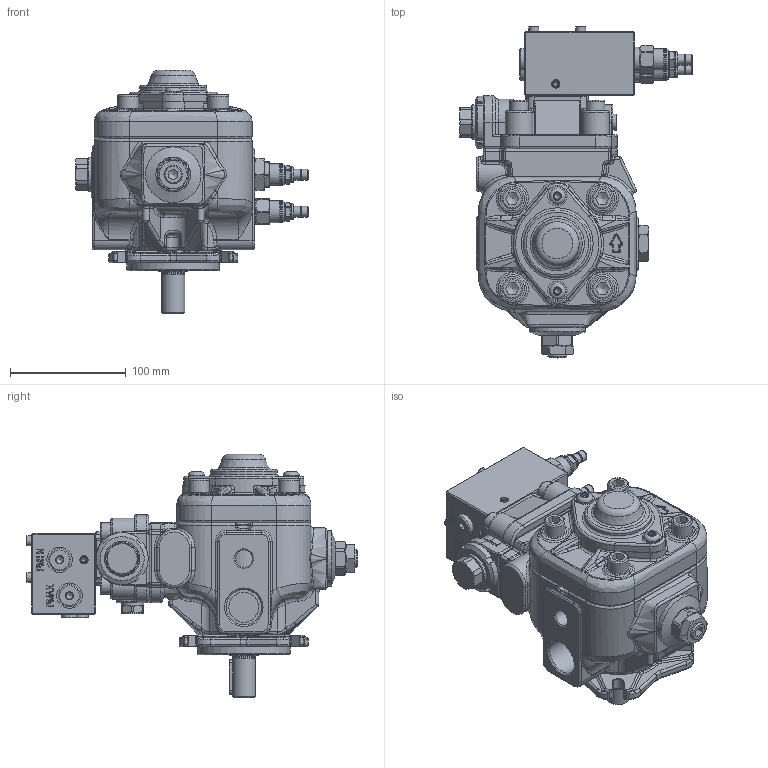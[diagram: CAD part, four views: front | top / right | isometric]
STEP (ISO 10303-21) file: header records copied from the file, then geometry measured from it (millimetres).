
FILE_DESCRIPTION(/* description */ (''),/* implementation_level */ '2;1');
FILE_NAME(/* name */ 'W:\Tecnico\Archivio\Berarma\Dimensioni Pompe\3D Export\Montaggio 3D semplificato\PLP-PHP 05\PHP05 FHRMA PCS004.stp',/* time_stamp */ '2018-10-10T15:10:12+02:00',/* author */ ('marcop'),/* organization */ (''),/* preprocessor_version */ 'ST-DEVELOPER v17',/* originating_system */ 'Autodesk Inventor 2018',/* authorisation */ '');
FILE_SCHEMA (('AUTOMOTIVE_DESIGN { 1 0 10303 214 3 1 1 }'));
Products named in the file (1): PHP05_Shrinkwrap_1
Bounding box: 200.95 x 286.6 x 210 mm (x, y, z)
Volume: 2454631.5 mm3; surface area: 281194.9 mm2
Topology: 2 solids, 2 shells, 2568 faces, 6539 edges, 4069 vertices
Faces by surface type: plane 958, cylinder 537, bspline 450, torus 299, cone 288, sphere 36
Full cylindrical faces by diameter (mm): 0.9 x6, 1.7 x4, 2.5 x2, 4 x2, 4.134 x2, 5.5 x2, 6 x3, 6.5 x9, 7.2 x1, 7.671 x4, 8 x1, 8.5 x6, 8.566 x4, 9 x4, 9.347 x4, 9.5 x2, 11.445 x2, 12 x4, 13 x1, 13.487 x2, 13.5 x2, 13.767 x4, 14 x6, 14.224 x2, 14.5 x1, 14.63 x2, 14.95 x1, 15 x1, 15.5 x1, 16 x8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
Entity records: 94756 total; most frequent: CARTESIAN_POINT 32912, ORIENTED_EDGE 12898, DIRECTION 11943, EDGE_CURVE 6449, AXIS2_PLACEMENT_3D 4786, VERTEX_POINT 4069, EDGE_LOOP 2768, CIRCLE 2602
